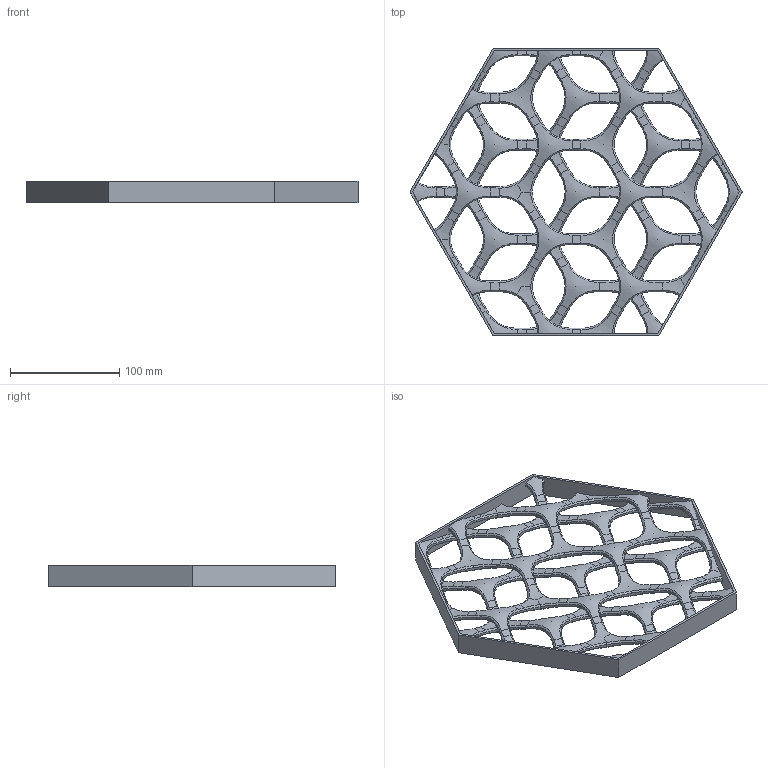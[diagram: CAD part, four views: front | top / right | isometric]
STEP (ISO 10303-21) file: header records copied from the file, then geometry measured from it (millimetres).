
FILE_DESCRIPTION(/* description */ ('STEP AP214'),/* implementation_level */ '2;1');
FILE_NAME(/* name */ '6064c3fb8f724118ed04cc65',/* time_stamp */ '2021-03-31T18:48:32+00:00',/* author */ (''),/* organization */ (''),/* preprocessor_version */ 'ST-DEVELOPER v18.1',/* originating_system */ ' ',/* authorisation */ ' ');
FILE_SCHEMA (('AUTOMOTIVE_DESIGN {1 0 10303 214 3 1 1}'));
Products named in the file (1): Part 1
Bounding box: 304.53 x 263.78 x 20 mm (x, y, z)
Volume: 172687.1 mm3; surface area: 111092.8 mm2
Topology: 1 solids, 1 shells, 1638 faces, 4274 edges, 2481 vertices
Faces by surface type: bspline 1364, cylinder 143, plane 131
Entity records: 88116 total; most frequent: CARTESIAN_POINT 61326, ORIENTED_EDGE 8122, EDGE_CURVE 4061, B_SPLINE_CURVE_WITH_KNOTS 3767, VERTEX_POINT 2456, FACE_BOUND 1705, EDGE_LOOP 1640, ADVANCED_FACE 1632
